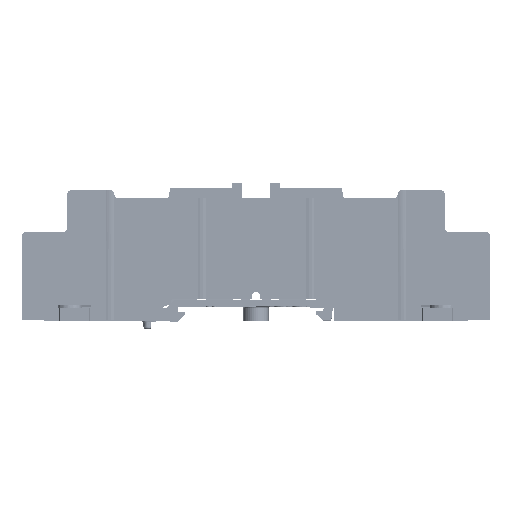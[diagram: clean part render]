
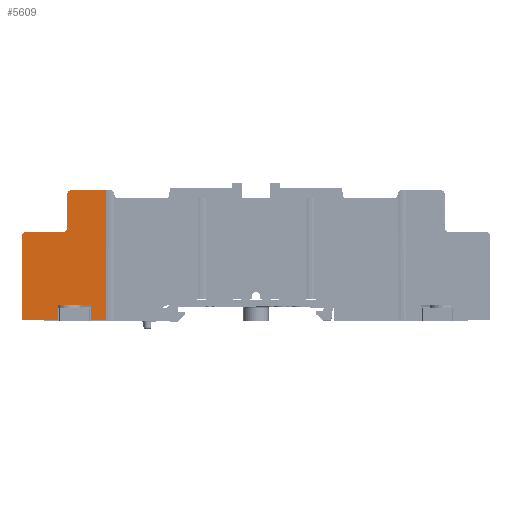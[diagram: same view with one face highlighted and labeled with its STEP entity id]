
A CAD part, top view. The second image highlights one B-rep face of the part: STEP entity #5609.
In plain terms, the highlighted planar face has unit normal (0, 0, 1) as drawn and (0, 0, -1) by its records, which use the part's own axes.
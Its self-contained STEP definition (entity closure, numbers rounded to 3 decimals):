
#39 = AXIS2_PLACEMENT_3D ( 'NONE', #112370, #31848, #125885 ) ;
#712 = EDGE_CURVE ( 'NONE', #70992, #11510, #37501, .T. ) ;
#3402 = CARTESIAN_POINT ( 'NONE',  ( 45.17, 30., -9.9 ) ) ;
#5058 = CARTESIAN_POINT ( 'NONE',  ( 56., 20., -9.9 ) ) ;
#5609 = ADVANCED_FACE ( 'NONE', ( #47032 ), #157066, .F. ) ;
#6341 = DIRECTION ( 'NONE',  ( 1., 0., 0. ) ) ;
#6475 = DIRECTION ( 'NONE',  ( 0., 1., 0. ) ) ;
#6665 = EDGE_CURVE ( 'NONE', #37080, #49015, #86751, .T. ) ;
#6750 = DIRECTION ( 'NONE',  ( 0., 1., 0. ) ) ;
#8264 = CARTESIAN_POINT ( 'NONE',  ( 19., 0., -9.9 ) ) ;
#9062 = VECTOR ( 'NONE', #6475, 1000. ) ;
#9677 = CIRCLE ( 'NONE', #39, 1. ) ;
#11510 = VERTEX_POINT ( 'NONE', #18650 ) ;
#13795 = ORIENTED_EDGE ( 'NONE', *, *, #107490, .T. ) ;
#14725 = EDGE_CURVE ( 'NONE', #124468, #28152, #45990, .T. ) ;
#15169 = VECTOR ( 'NONE', #75370, 1000. ) ;
#15670 = CARTESIAN_POINT ( 'NONE',  ( 47.45, 0.5, -9.9 ) ) ;
#17062 = VERTEX_POINT ( 'NONE', #159782 ) ;
#18566 = DIRECTION ( 'NONE',  ( 0., -1., 0. ) ) ;
#18650 = CARTESIAN_POINT ( 'NONE',  ( 36., 31., -9.9 ) ) ;
#18958 = DIRECTION ( 'NONE',  ( -1., 0., 0. ) ) ;
#21534 = CARTESIAN_POINT ( 'NONE',  ( 56., 0., -9.9 ) ) ;
#23755 = AXIS2_PLACEMENT_3D ( 'NONE', #153370, #72699, #166961 ) ;
#24297 = CIRCLE ( 'NONE', #23755, 1. ) ;
#27243 = DIRECTION ( 'NONE',  ( -1., 0., 0. ) ) ;
#28152 = VERTEX_POINT ( 'NONE', #44327 ) ;
#29097 = VERTEX_POINT ( 'NONE', #3402 ) ;
#31848 = DIRECTION ( 'NONE',  ( 0., 0., -1. ) ) ;
#32697 = ORIENTED_EDGE ( 'NONE', *, *, #32770, .T. ) ;
#32770 = EDGE_CURVE ( 'NONE', #125830, #11510, #84903, .T. ) ;
#33406 = CARTESIAN_POINT ( 'NONE',  ( 36., 0., -9.9 ) ) ;
#36165 = ORIENTED_EDGE ( 'NONE', *, *, #14725, .T. ) ;
#37080 = VERTEX_POINT ( 'NONE', #49627 ) ;
#37501 = LINE ( 'NONE', #56415, #73260 ) ;
#40602 = EDGE_CURVE ( 'NONE', #70992, #29097, #9677, .T. ) ;
#44021 = ORIENTED_EDGE ( 'NONE', *, *, #88349, .F. ) ;
#44327 = CARTESIAN_POINT ( 'NONE',  ( 39.45, 0., -9.9 ) ) ;
#45990 = LINE ( 'NONE', #74140, #149251 ) ;
#47032 = FACE_OUTER_BOUND ( 'NONE', #55867, .T. ) ;
#49015 = VERTEX_POINT ( 'NONE', #21534 ) ;
#49627 = CARTESIAN_POINT ( 'NONE',  ( 47.45, 0., -9.9 ) ) ;
#55867 = EDGE_LOOP ( 'NONE', ( #127735, #72004, #13795, #36165, #44021, #32697, #66828, #131578, #119942, #81033, #111638, #68044, #68128 ) ) ;
#56014 = VERTEX_POINT ( 'NONE', #103213 ) ;
#56258 = DIRECTION ( 'NONE',  ( 0., 1., 0. ) ) ;
#56415 = CARTESIAN_POINT ( 'NONE',  ( 36., 31., -9.9 ) ) ;
#57463 = DIRECTION ( 'NONE',  ( 1., 0., 0. ) ) ;
#65878 = VECTOR ( 'NONE', #18958, 1000. ) ;
#66564 = VECTOR ( 'NONE', #6750, 1000. ) ;
#66825 = CARTESIAN_POINT ( 'NONE',  ( 39.45, 3.5, -9.9 ) ) ;
#66828 = ORIENTED_EDGE ( 'NONE', *, *, #712, .F. ) ;
#67022 = EDGE_CURVE ( 'NONE', #17062, #73520, #155939, .T. ) ;
#67304 = CARTESIAN_POINT ( 'NONE',  ( 45.17, 22., -9.9 ) ) ;
#68044 = ORIENTED_EDGE ( 'NONE', *, *, #67022, .T. ) ;
#68128 = ORIENTED_EDGE ( 'NONE', *, *, #105504, .F. ) ;
#68844 = DIRECTION ( 'NONE',  ( -1., 0., 0. ) ) ;
#69064 = EDGE_CURVE ( 'NONE', #37080, #72304, #140817, .T. ) ;
#70114 = AXIS2_PLACEMENT_3D ( 'NONE', #143433, #116339, #170629 ) ;
#70992 = VERTEX_POINT ( 'NONE', #104549 ) ;
#72004 = ORIENTED_EDGE ( 'NONE', *, *, #69064, .T. ) ;
#72304 = VERTEX_POINT ( 'NONE', #138173 ) ;
#72699 = DIRECTION ( 'NONE',  ( 0., 0., 1. ) ) ;
#73260 = VECTOR ( 'NONE', #68844, 1000. ) ;
#73520 = VERTEX_POINT ( 'NONE', #5058 ) ;
#74140 = CARTESIAN_POINT ( 'NONE',  ( 39.45, 0.5, -9.9 ) ) ;
#75370 = DIRECTION ( 'NONE',  ( 1., 0., 0. ) ) ;
#81033 = ORIENTED_EDGE ( 'NONE', *, *, #134803, .T. ) ;
#83481 = VECTOR ( 'NONE', #18566, 1000. ) ;
#84903 = LINE ( 'NONE', #167862, #9062 ) ;
#86751 = LINE ( 'NONE', #8264, #15169 ) ;
#86953 = DIRECTION ( 'NONE',  ( 0., 0., -1. ) ) ;
#87689 = DIRECTION ( 'NONE',  ( 0., -1., 0. ) ) ;
#88343 = LINE ( 'NONE', #151715, #160084 ) ;
#88349 = EDGE_CURVE ( 'NONE', #125830, #28152, #88343, .T. ) ;
#93271 = LINE ( 'NONE', #99017, #65878 ) ;
#99017 = CARTESIAN_POINT ( 'NONE',  ( -19., 3.5, -9.9 ) ) ;
#103213 = CARTESIAN_POINT ( 'NONE',  ( 46.17, 21., -9.9 ) ) ;
#104549 = CARTESIAN_POINT ( 'NONE',  ( 44.17, 31., -9.9 ) ) ;
#105437 = EDGE_CURVE ( 'NONE', #29097, #151222, #155098, .T. ) ;
#105504 = EDGE_CURVE ( 'NONE', #49015, #73520, #142351, .T. ) ;
#107490 = EDGE_CURVE ( 'NONE', #72304, #124468, #93271, .T. ) ;
#111617 = VECTOR ( 'NONE', #27243, 1000. ) ;
#111638 = ORIENTED_EDGE ( 'NONE', *, *, #155271, .F. ) ;
#112370 = CARTESIAN_POINT ( 'NONE',  ( 44.17, 30., -9.9 ) ) ;
#116339 = DIRECTION ( 'NONE',  ( 0., 0., 1. ) ) ;
#119942 = ORIENTED_EDGE ( 'NONE', *, *, #105437, .T. ) ;
#124468 = VERTEX_POINT ( 'NONE', #66825 ) ;
#125830 = VERTEX_POINT ( 'NONE', #33406 ) ;
#125885 = DIRECTION ( 'NONE',  ( 1., 0., 0. ) ) ;
#127735 = ORIENTED_EDGE ( 'NONE', *, *, #6665, .F. ) ;
#131578 = ORIENTED_EDGE ( 'NONE', *, *, #40602, .T. ) ;
#134803 = EDGE_CURVE ( 'NONE', #151222, #56014, #24297, .T. ) ;
#138173 = CARTESIAN_POINT ( 'NONE',  ( 47.45, 3.5, -9.9 ) ) ;
#139163 = CARTESIAN_POINT ( 'NONE',  ( 45.17, 29., -9.9 ) ) ;
#139526 = AXIS2_PLACEMENT_3D ( 'NONE', #167727, #86953, #6341 ) ;
#140817 = LINE ( 'NONE', #15670, #168337 ) ;
#142351 = LINE ( 'NONE', #168147, #66564 ) ;
#143433 = CARTESIAN_POINT ( 'NONE',  ( -19., 0.5, -9.9 ) ) ;
#149251 = VECTOR ( 'NONE', #87689, 1000. ) ;
#151222 = VERTEX_POINT ( 'NONE', #67304 ) ;
#151712 = LINE ( 'NONE', #161490, #111617 ) ;
#151715 = CARTESIAN_POINT ( 'NONE',  ( 19., 0., -9.9 ) ) ;
#153370 = CARTESIAN_POINT ( 'NONE',  ( 46.17, 22., -9.9 ) ) ;
#155098 = LINE ( 'NONE', #139163, #83481 ) ;
#155271 = EDGE_CURVE ( 'NONE', #17062, #56014, #151712, .T. ) ;
#155939 = CIRCLE ( 'NONE', #139526, 1. ) ;
#157066 = PLANE ( 'NONE',  #70114 ) ;
#159782 = CARTESIAN_POINT ( 'NONE',  ( 55., 21., -9.9 ) ) ;
#160084 = VECTOR ( 'NONE', #57463, 1000. ) ;
#161490 = CARTESIAN_POINT ( 'NONE',  ( 56., 21., -9.9 ) ) ;
#166961 = DIRECTION ( 'NONE',  ( 1., 0., 0. ) ) ;
#167727 = CARTESIAN_POINT ( 'NONE',  ( 55., 20., -9.9 ) ) ;
#167862 = CARTESIAN_POINT ( 'NONE',  ( 36., 1.498, -9.9 ) ) ;
#168147 = CARTESIAN_POINT ( 'NONE',  ( 56., 0., -9.9 ) ) ;
#168337 = VECTOR ( 'NONE', #56258, 1000. ) ;
#170629 = DIRECTION ( 'NONE',  ( 1., 0., 0. ) ) ;
